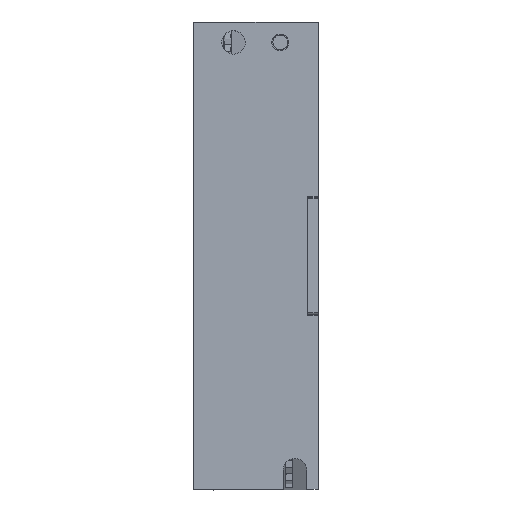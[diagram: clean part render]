
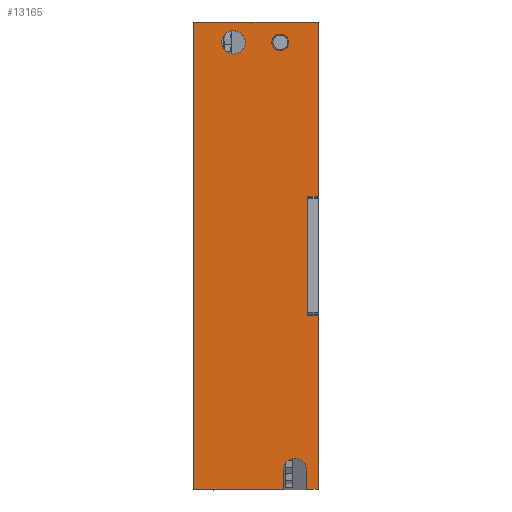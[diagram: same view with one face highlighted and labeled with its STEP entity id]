
A CAD part, top view. The second image highlights one B-rep face of the part: STEP entity #13165.
In plain terms, the highlighted planar face has unit normal (0, 0, 1).
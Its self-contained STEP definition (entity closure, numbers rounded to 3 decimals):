
#211=FACE_BOUND('',#17984,.T.);
#212=FACE_BOUND('',#17985,.T.);
#3782=(
BOUNDED_CURVE()
B_SPLINE_CURVE(2,(#137190,#137191,#137192,#137193,#137194),
 .UNSPECIFIED.,.F.,.F.)
B_SPLINE_CURVE_WITH_KNOTS((3,2,3),(0.,3.142,6.283),
 .UNSPECIFIED.)
CURVE()
GEOMETRIC_REPRESENTATION_ITEM()
RATIONAL_B_SPLINE_CURVE((1.,0.707,1.,0.707,1.))
REPRESENTATION_ITEM('')
);
#3783=(
BOUNDED_CURVE()
B_SPLINE_CURVE(2,(#137197,#137198,#137199,#137200,#137201),
 .UNSPECIFIED.,.F.,.F.)
B_SPLINE_CURVE_WITH_KNOTS((3,2,3),(0.,3.142,6.283),
 .UNSPECIFIED.)
CURVE()
GEOMETRIC_REPRESENTATION_ITEM()
RATIONAL_B_SPLINE_CURVE((1.,0.707,1.,0.707,1.))
REPRESENTATION_ITEM('')
);
#3784=(
BOUNDED_CURVE()
B_SPLINE_CURVE(2,(#137202,#137203,#137204,#137205,#137206),
 .UNSPECIFIED.,.F.,.F.)
B_SPLINE_CURVE_WITH_KNOTS((3,2,3),(0.,3.142,6.283),
 .UNSPECIFIED.)
CURVE()
GEOMETRIC_REPRESENTATION_ITEM()
RATIONAL_B_SPLINE_CURVE((1.,0.707,1.,0.707,1.))
REPRESENTATION_ITEM('')
);
#3785=(
BOUNDED_CURVE()
B_SPLINE_CURVE(2,(#137209,#137210,#137211,#137212,#137213),
 .UNSPECIFIED.,.F.,.F.)
B_SPLINE_CURVE_WITH_KNOTS((3,2,3),(-3.927,-1.963,
0.),.UNSPECIFIED.)
CURVE()
GEOMETRIC_REPRESENTATION_ITEM()
RATIONAL_B_SPLINE_CURVE((1.,0.707,1.,0.707,1.))
REPRESENTATION_ITEM('')
);
#3786=(
BOUNDED_CURVE()
B_SPLINE_CURVE(2,(#137214,#137215,#137216,#137217,#137218),
 .UNSPECIFIED.,.F.,.F.)
B_SPLINE_CURVE_WITH_KNOTS((3,2,3),(-3.927,-1.963,
0.),.UNSPECIFIED.)
CURVE()
GEOMETRIC_REPRESENTATION_ITEM()
RATIONAL_B_SPLINE_CURVE((1.,0.707,1.,0.707,1.))
REPRESENTATION_ITEM('')
);
#13165=ADVANCED_FACE('',(#15474,#211,#212),#68001,.T.);
#15474=FACE_OUTER_BOUND('',#17983,.T.);
#17983=EDGE_LOOP('',(#29802,#29803,#29804,#29805,#29806,#29807,#29808,#29809,
#29810,#29811,#29812,#29813));
#17984=EDGE_LOOP('',(#29814,#29815));
#17985=EDGE_LOOP('',(#29816,#29817));
#29802=ORIENTED_EDGE('',*,*,#42672,.F.);
#29803=ORIENTED_EDGE('',*,*,#42659,.T.);
#29804=ORIENTED_EDGE('',*,*,#42669,.T.);
#29805=ORIENTED_EDGE('',*,*,#42668,.T.);
#29806=ORIENTED_EDGE('',*,*,#42667,.T.);
#29807=ORIENTED_EDGE('',*,*,#42666,.T.);
#29808=ORIENTED_EDGE('',*,*,#42665,.T.);
#29809=ORIENTED_EDGE('',*,*,#42664,.F.);
#29810=ORIENTED_EDGE('',*,*,#42663,.F.);
#29811=ORIENTED_EDGE('',*,*,#42662,.F.);
#29812=ORIENTED_EDGE('',*,*,#42661,.T.);
#29813=ORIENTED_EDGE('',*,*,#42660,.T.);
#29814=ORIENTED_EDGE('',*,*,#42674,.F.);
#29815=ORIENTED_EDGE('',*,*,#42673,.F.);
#29816=ORIENTED_EDGE('',*,*,#42671,.T.);
#29817=ORIENTED_EDGE('',*,*,#42670,.T.);
#42659=EDGE_CURVE('',#65595,#65594,#53077,.T.);
#42660=EDGE_CURVE('',#65597,#65596,#53078,.T.);
#42661=EDGE_CURVE('',#65598,#65597,#53079,.T.);
#42662=EDGE_CURVE('',#65598,#65599,#53080,.T.);
#42663=EDGE_CURVE('',#65599,#65600,#53081,.T.);
#42664=EDGE_CURVE('',#65600,#65601,#53082,.T.);
#42665=EDGE_CURVE('',#65602,#65601,#53083,.T.);
#42666=EDGE_CURVE('',#65603,#65602,#53084,.T.);
#42667=EDGE_CURVE('',#65604,#65603,#53085,.T.);
#42668=EDGE_CURVE('',#65605,#65604,#3782,.T.);
#42669=EDGE_CURVE('',#65594,#65605,#53086,.T.);
#42670=EDGE_CURVE('',#65607,#65606,#3783,.T.);
#42671=EDGE_CURVE('',#65606,#65607,#3784,.T.);
#42672=EDGE_CURVE('',#65595,#65596,#53087,.T.);
#42673=EDGE_CURVE('',#65609,#65608,#3785,.T.);
#42674=EDGE_CURVE('',#65608,#65609,#3786,.T.);
#53077=B_SPLINE_CURVE_WITH_KNOTS('',1,(#137172,#137173),.UNSPECIFIED.,.F.,
 .F.,(2,2),(0.,15.3),.UNSPECIFIED.);
#53078=B_SPLINE_CURVE_WITH_KNOTS('',1,(#137174,#137175),.UNSPECIFIED.,.F.,
 .F.,(2,2),(0.,21.3),.UNSPECIFIED.);
#53079=B_SPLINE_CURVE_WITH_KNOTS('',1,(#137176,#137177),.UNSPECIFIED.,.F.,
 .F.,(2,2),(0.,29.8),.UNSPECIFIED.);
#53080=B_SPLINE_CURVE_WITH_KNOTS('',1,(#137178,#137179),.UNSPECIFIED.,.F.,
 .F.,(2,2),(0.,1.8),.UNSPECIFIED.);
#53081=B_SPLINE_CURVE_WITH_KNOTS('',1,(#137180,#137181),.UNSPECIFIED.,.F.,
 .F.,(2,2),(0.,20.4),.UNSPECIFIED.);
#53082=B_SPLINE_CURVE_WITH_KNOTS('',1,(#137182,#137183),.UNSPECIFIED.,.F.,
 .F.,(2,2),(-1.8,0.),.UNSPECIFIED.);
#53083=B_SPLINE_CURVE_WITH_KNOTS('',1,(#137184,#137185),.UNSPECIFIED.,.F.,
 .F.,(2,2),(0.,29.8),.UNSPECIFIED.);
#53084=B_SPLINE_CURVE_WITH_KNOTS('',1,(#137186,#137187),.UNSPECIFIED.,.F.,
 .F.,(2,2),(0.,2.),.UNSPECIFIED.);
#53085=B_SPLINE_CURVE_WITH_KNOTS('',1,(#137188,#137189),.UNSPECIFIED.,.F.,
 .F.,(2,2),(0.,3.3),.UNSPECIFIED.);
#53086=B_SPLINE_CURVE_WITH_KNOTS('',1,(#137195,#137196),.UNSPECIFIED.,.F.,
 .F.,(2,2),(0.,3.3),.UNSPECIFIED.);
#53087=B_SPLINE_CURVE_WITH_KNOTS('',1,(#137207,#137208),.UNSPECIFIED.,.F.,
 .F.,(2,2),(-80.,0.),.UNSPECIFIED.);
#65594=VERTEX_POINT('',#137156);
#65595=VERTEX_POINT('',#137157);
#65596=VERTEX_POINT('',#137158);
#65597=VERTEX_POINT('',#137159);
#65598=VERTEX_POINT('',#137160);
#65599=VERTEX_POINT('',#137161);
#65600=VERTEX_POINT('',#137162);
#65601=VERTEX_POINT('',#137163);
#65602=VERTEX_POINT('',#137164);
#65603=VERTEX_POINT('',#137165);
#65604=VERTEX_POINT('',#137166);
#65605=VERTEX_POINT('',#137167);
#65606=VERTEX_POINT('',#137168);
#65607=VERTEX_POINT('',#137169);
#65608=VERTEX_POINT('',#137170);
#65609=VERTEX_POINT('',#137171);
#68001=PLANE('',#69206);
#69206=AXIS2_PLACEMENT_3D('',#137155,#70394,$);
#70394=DIRECTION('',(0.,0.,1.));
#137155=CARTESIAN_POINT('',(-2.42,-50.362,36.97));
#137156=CARTESIAN_POINT('',(15.07,-42.302,36.97));
#137157=CARTESIAN_POINT('',(-0.23,-42.302,36.97));
#137158=CARTESIAN_POINT('',(-0.23,37.698,36.97));
#137159=CARTESIAN_POINT('',(21.07,37.698,36.97));
#137160=CARTESIAN_POINT('',(21.07,7.898,36.97));
#137161=CARTESIAN_POINT('',(19.27,7.898,36.97));
#137162=CARTESIAN_POINT('',(19.27,-12.502,36.97));
#137163=CARTESIAN_POINT('',(21.07,-12.502,36.97));
#137164=CARTESIAN_POINT('',(21.07,-42.302,36.97));
#137165=CARTESIAN_POINT('',(19.07,-42.302,36.97));
#137166=CARTESIAN_POINT('',(19.07,-39.002,36.97));
#137167=CARTESIAN_POINT('',(15.07,-39.002,36.97));
#137168=CARTESIAN_POINT('',(8.57,34.198,36.97));
#137169=CARTESIAN_POINT('',(4.57,34.198,36.97));
#137170=CARTESIAN_POINT('',(13.32,34.198,36.97));
#137171=CARTESIAN_POINT('',(15.82,34.198,36.97));
#137172=CARTESIAN_POINT('',(-0.23,-42.302,36.97));
#137173=CARTESIAN_POINT('',(15.07,-42.302,36.97));
#137174=CARTESIAN_POINT('',(21.07,37.698,36.97));
#137175=CARTESIAN_POINT('',(-0.23,37.698,36.97));
#137176=CARTESIAN_POINT('',(21.07,7.898,36.97));
#137177=CARTESIAN_POINT('',(21.07,37.698,36.97));
#137178=CARTESIAN_POINT('',(21.07,7.898,36.97));
#137179=CARTESIAN_POINT('',(19.27,7.898,36.97));
#137180=CARTESIAN_POINT('',(19.27,7.898,36.97));
#137181=CARTESIAN_POINT('',(19.27,-12.502,36.97));
#137182=CARTESIAN_POINT('',(19.27,-12.502,36.97));
#137183=CARTESIAN_POINT('',(21.07,-12.502,36.97));
#137184=CARTESIAN_POINT('',(21.07,-42.302,36.97));
#137185=CARTESIAN_POINT('',(21.07,-12.502,36.97));
#137186=CARTESIAN_POINT('',(19.07,-42.302,36.97));
#137187=CARTESIAN_POINT('',(21.07,-42.302,36.97));
#137188=CARTESIAN_POINT('',(19.07,-39.002,36.97));
#137189=CARTESIAN_POINT('',(19.07,-42.302,36.97));
#137190=CARTESIAN_POINT('',(15.07,-39.002,36.97));
#137191=CARTESIAN_POINT('',(15.07,-37.002,36.97));
#137192=CARTESIAN_POINT('',(17.07,-37.002,36.97));
#137193=CARTESIAN_POINT('',(19.07,-37.002,36.97));
#137194=CARTESIAN_POINT('',(19.07,-39.002,36.97));
#137195=CARTESIAN_POINT('',(15.07,-42.302,36.97));
#137196=CARTESIAN_POINT('',(15.07,-39.002,36.97));
#137197=CARTESIAN_POINT('',(4.57,34.198,36.97));
#137198=CARTESIAN_POINT('',(4.57,36.198,36.97));
#137199=CARTESIAN_POINT('',(6.57,36.198,36.97));
#137200=CARTESIAN_POINT('',(8.57,36.198,36.97));
#137201=CARTESIAN_POINT('',(8.57,34.198,36.97));
#137202=CARTESIAN_POINT('',(8.57,34.198,36.97));
#137203=CARTESIAN_POINT('',(8.57,32.198,36.97));
#137204=CARTESIAN_POINT('',(6.57,32.198,36.97));
#137205=CARTESIAN_POINT('',(4.57,32.198,36.97));
#137206=CARTESIAN_POINT('',(4.57,34.198,36.97));
#137207=CARTESIAN_POINT('',(-0.23,-42.302,36.97));
#137208=CARTESIAN_POINT('',(-0.23,37.698,36.97));
#137209=CARTESIAN_POINT('',(15.82,34.198,36.97));
#137210=CARTESIAN_POINT('',(15.82,35.448,36.97));
#137211=CARTESIAN_POINT('',(14.57,35.448,36.97));
#137212=CARTESIAN_POINT('',(13.32,35.448,36.97));
#137213=CARTESIAN_POINT('',(13.32,34.198,36.97));
#137214=CARTESIAN_POINT('',(13.32,34.198,36.97));
#137215=CARTESIAN_POINT('',(13.32,32.948,36.97));
#137216=CARTESIAN_POINT('',(14.57,32.948,36.97));
#137217=CARTESIAN_POINT('',(15.82,32.948,36.97));
#137218=CARTESIAN_POINT('',(15.82,34.198,36.97));
